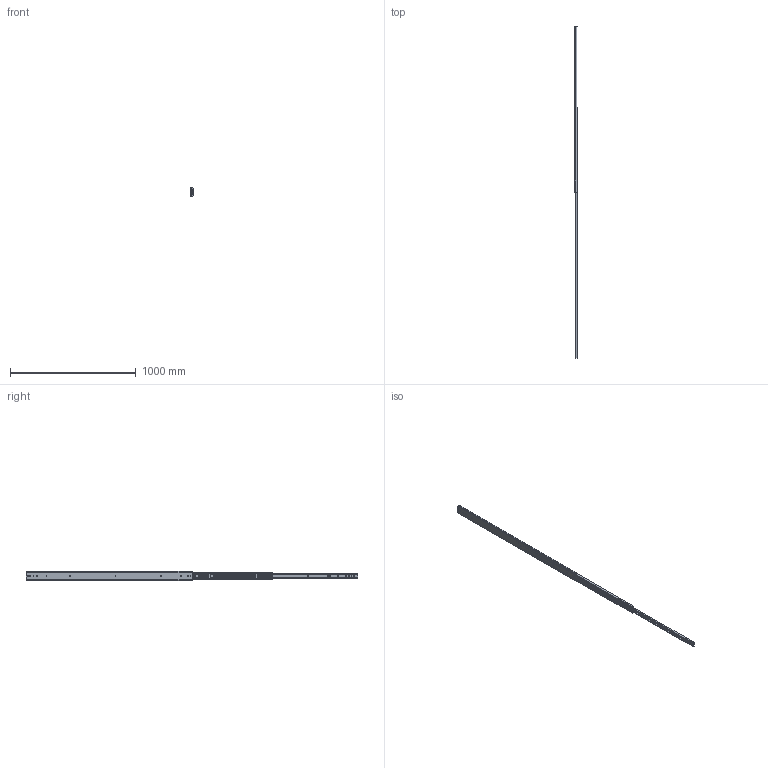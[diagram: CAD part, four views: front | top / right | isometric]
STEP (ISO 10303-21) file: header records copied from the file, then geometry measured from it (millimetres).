
FILE_DESCRIPTION(/* description */ ('Unknown'),/* implementation_level */ '2;1');
FILE_NAME(/* name */ '76J01-52 open',/* time_stamp */ '2024-07-30T09:50:29+08:00',/* author */ ('Unknown'),/* organization */ ('Unknown'),/* preprocessor_version */ 'ST-DEVELOPER v18.104',/* originating_system */ 'Solid Edge',/* authorisation */ 'Unknown');
FILE_SCHEMA (('AUTOMOTIVE_DESIGN {1 0 10303 214 3 1 1}'));
Length unit declared in the file: millimetre
Products named in the file (4): 76J01-52 open; 76J01 52 inch 內_0; 76J01 52 吋中_; 76J01 52 吋
Assembly tree (3 placements, depth 2):
  76J01-52 open
    76J01 52 inch 內_0
    76J01 52 吋中_
    76J01 52 吋
Bounding box: 19.3 x 2640.9 x 76.76 mm (x, y, z)
Volume: 1043171.8 mm3; surface area: 648657.4 mm2
Topology: 3 solids, 3 shells, 196 faces, 606 edges, 410 vertices
Faces by surface type: plane 104, cylinder 92
Full cylindrical faces by diameter (mm): 5.2 x16, 7.1 x2
Entity records: 7179 total; most frequent: CARTESIAN_POINT 1168, DIRECTION 1152, ORIENTED_EDGE 1140, EDGE_CURVE 570, VERTEX_POINT 392, LINE 384, VECTOR 384, AXIS2_PLACEMENT_3D 384
